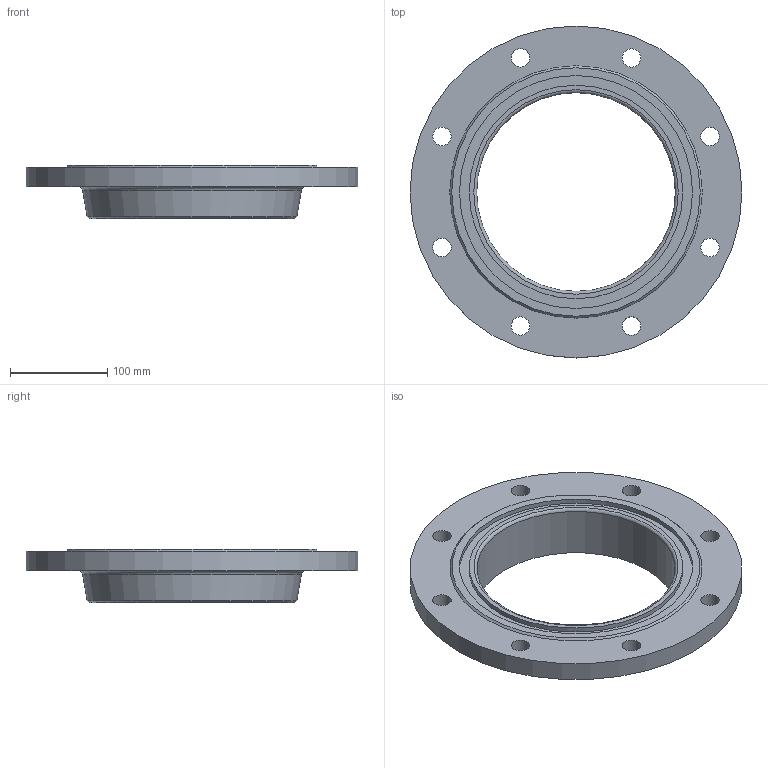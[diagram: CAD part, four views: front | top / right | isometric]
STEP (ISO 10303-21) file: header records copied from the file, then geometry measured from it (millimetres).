
FILE_DESCRIPTION(/* description */ (''),/* implementation_level */ '2;1');
FILE_NAME(/* name */ 'C:\Users\D\Documents\Inventor\HP\JIS\フランジ\水道用フランジF12\GF\ffws_gf_200.stp',/* time_stamp */ '2024-08-28T10:11:23+09:00',/* author */ ('D'),/* organization */ (''),/* preprocessor_version */ 'ST-DEVELOPER v18',/* originating_system */ 'Autodesk Inventor 2020',/* authorisation */ '');
FILE_SCHEMA (('AUTOMOTIVE_DESIGN { 1 0 10303 214 3 1 1 }'));
Length unit declared in the file: millimetre
Products named in the file (1): ffws_rf_80
Bounding box: 342 x 342 x 55 mm (x, y, z)
Volume: 1317692.9 mm3; surface area: 204467.1 mm2
Topology: 1 solids, 1 shells, 23 faces, 68 edges, 51 vertices
Faces by surface type: cylinder 12, plane 6, cone 3, torus 2
Full cylindrical faces by diameter (mm): 19 x8, 204.7 x1, 220 x1, 240 x1, 342 x1
Entity records: 908 total; most frequent: DIRECTION 169, CARTESIAN_POINT 143, ORIENTED_EDGE 136, AXIS2_PLACEMENT_3D 77, EDGE_CURVE 68, CIRCLE 53, VERTEX_POINT 51, EDGE_LOOP 45
